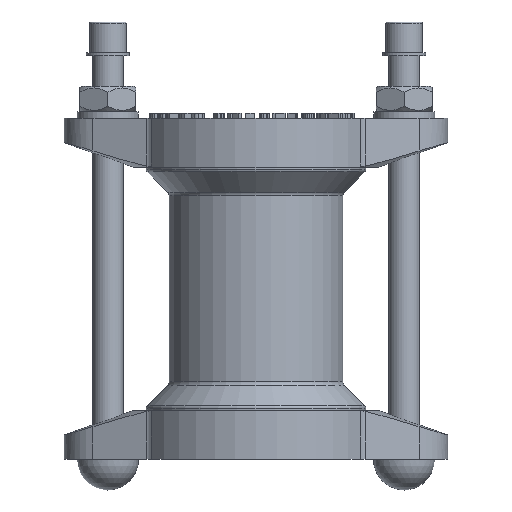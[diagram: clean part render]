
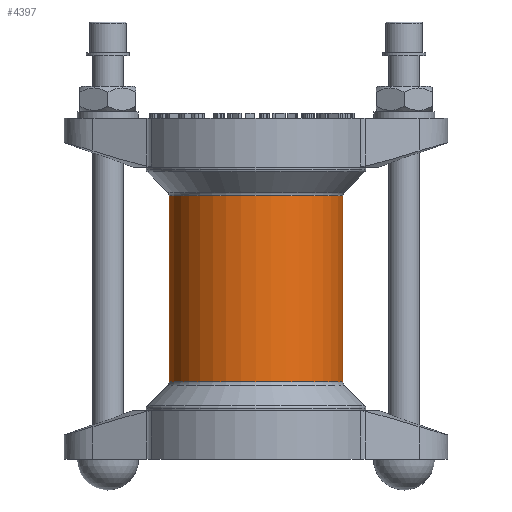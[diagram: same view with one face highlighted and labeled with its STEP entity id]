
A CAD part, front view. The second image highlights one B-rep face of the part: STEP entity #4397.
In plain terms, the highlighted cylindrical face has radius 34 mm (diameter 68 mm), a full revolution.
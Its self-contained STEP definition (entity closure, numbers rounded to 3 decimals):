
#4397=ADVANCED_FACE('',(#8219,#8221),#8223,.T.);
#8219=FACE_OUTER_BOUND('',#8220,.T.);
#8220=EDGE_LOOP('',(#12307));
#8221=FACE_OUTER_BOUND('',#8222,.T.);
#8222=EDGE_LOOP('',(#12308));
#8223=CYLINDRICAL_SURFACE('',#8224,34.);
#8224=AXIS2_PLACEMENT_3D('',#8225,#8226,#8227);
#8225=CARTESIAN_POINT('',(0.,0.,37.172));
#8226=DIRECTION('',(0.,0.,-1.));
#8227=DIRECTION('',(0.,1.,0.));
#12307=ORIENTED_EDGE('',*,*,#14079,.T.);
#12308=ORIENTED_EDGE('',*,*,#14080,.F.);
#14079=EDGE_CURVE('',#16381,#16381,#16382,.T.);
#14080=EDGE_CURVE('',#16383,#16383,#16384,.T.);
#16381=VERTEX_POINT('',#22902);
#16382=CIRCLE('',#22903,34.);
#16383=VERTEX_POINT('',#22907);
#16384=CIRCLE('',#22908,34.);
#22902=CARTESIAN_POINT('',(0.,34.,36.343));
#22903=AXIS2_PLACEMENT_3D('',#22904,#22905,#22906);
#22904=CARTESIAN_POINT('',(0.,0.,36.343));
#22905=DIRECTION('',(0.,0.,-1.));
#22906=DIRECTION('',(0.,1.,0.));
#22907=CARTESIAN_POINT('',(0.,34.,-36.343));
#22908=AXIS2_PLACEMENT_3D('',#22909,#22910,#22911);
#22909=CARTESIAN_POINT('',(0.,0.,-36.343));
#22910=DIRECTION('',(0.,0.,-1.));
#22911=DIRECTION('',(0.,1.,0.));
